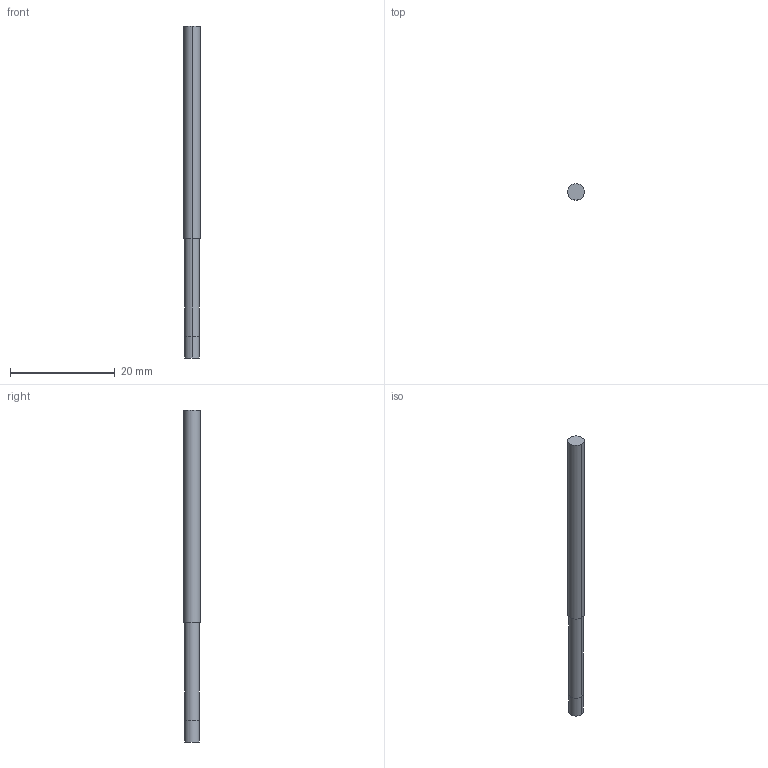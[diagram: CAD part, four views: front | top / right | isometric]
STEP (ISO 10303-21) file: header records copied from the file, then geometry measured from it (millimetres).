
FILE_DESCRIPTION((' '),'2;1');
FILE_NAME( '3MVS1094N8AH.stp', '2026-01-21T19:26:17', (' '), ('--- Datakit www.datakit.com---'), ' Datakit CrossCadWare V2025.4 Sep 19 2025', 'Mastercam 2027', ' ');
FILE_SCHEMA(('AUTOMOTIVE_DESIGN { 1 0 10303 214 1 1 1 1 }'));
Length unit declared in the file: inch
Products named in the file (1): 3MVS1094N8AH
Bounding box: 3.17 x 3.17 x 63.5 mm (x, y, z)
Volume: 460.4 mm3; surface area: 620.8 mm2
Topology: 1 solids, 1 shells, 9 faces, 16 edges, 10 vertices
Faces by surface type: cylinder 6, plane 3
Entity records: 302 total; most frequent: DIRECTION 54, CARTESIAN_POINT 40, ORIENTED_EDGE 32, AXIS2_PLACEMENT_3D 24, EDGE_CURVE 16, VERTEX_POINT 10, CIRCLE 10, EDGE_LOOP 10
